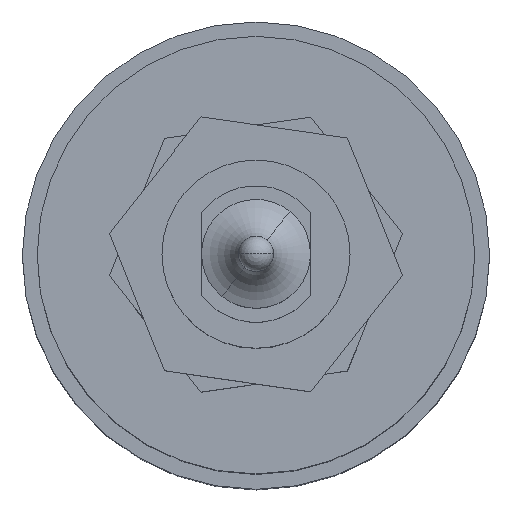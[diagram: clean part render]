
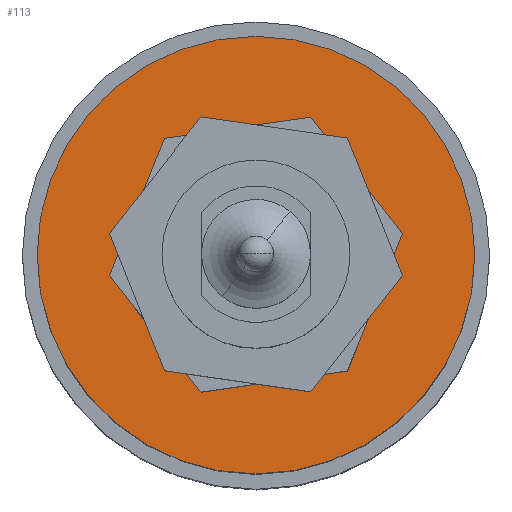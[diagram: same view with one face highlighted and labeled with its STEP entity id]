
A CAD part, top view. The second image highlights one B-rep face of the part: STEP entity #113.
In plain terms, the highlighted planar face has unit normal (0, 0, 1).
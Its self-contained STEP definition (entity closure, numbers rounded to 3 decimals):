
#113=ADVANCED_FACE('',(#214,#215),#216,.F.);
#214=FACE_OUTER_BOUND('',#342,.T.);
#215=FACE_BOUND('',#343,.T.);
#216=PLANE('',#344);
#342=EDGE_LOOP('',(#678,#679));
#343=EDGE_LOOP('',(#680,#681));
#344=AXIS2_PLACEMENT_3D('',#682,#683,#684);
#678=ORIENTED_EDGE('',*,*,#856,.F.);
#679=ORIENTED_EDGE('',*,*,#926,.F.);
#680=ORIENTED_EDGE('',*,*,#850,.T.);
#681=ORIENTED_EDGE('',*,*,#927,.T.);
#682=CARTESIAN_POINT('',(3.396,1.122,49.413));
#683=DIRECTION('',(0.0,0.0,-1.0));
#684=DIRECTION('',(0.0,-1.0,0.0));
#850=EDGE_CURVE('',#1030,#1027,#1031,.T.);
#856=EDGE_CURVE('',#1040,#1036,#1042,.T.);
#926=EDGE_CURVE('',#1036,#1040,#1156,.T.);
#927=EDGE_CURVE('',#1027,#1030,#1157,.T.);
#1027=VERTEX_POINT('',#1256);
#1030=VERTEX_POINT('',#1260);
#1031=CIRCLE('',#1261,4.75);
#1036=VERTEX_POINT('',#1267);
#1040=VERTEX_POINT('',#1272);
#1042=CIRCLE('',#1275,11.05);
#1156=CIRCLE('',#1431,11.05);
#1157=CIRCLE('',#1432,4.75);
#1256=CARTESIAN_POINT('',(-1.354,1.122,49.413));
#1260=CARTESIAN_POINT('',(8.146,1.122,49.413));
#1261=AXIS2_PLACEMENT_3D('',#1533,#1534,#1535);
#1267=CARTESIAN_POINT('',(-7.654,1.122,49.413));
#1272=CARTESIAN_POINT('',(14.446,1.122,49.413));
#1275=AXIS2_PLACEMENT_3D('',#1545,#1546,#1547);
#1431=AXIS2_PLACEMENT_3D('',#1671,#1672,#1673);
#1432=AXIS2_PLACEMENT_3D('',#1674,#1675,#1676);
#1533=CARTESIAN_POINT('',(3.396,1.122,49.413));
#1534=DIRECTION('',(0.0,0.0,-1.0));
#1535=DIRECTION('',(-1.0,0.0,0.0));
#1545=CARTESIAN_POINT('',(3.396,1.122,49.413));
#1546=DIRECTION('',(0.0,0.0,-1.0));
#1547=DIRECTION('',(-1.0,0.0,0.0));
#1671=CARTESIAN_POINT('',(3.396,1.122,49.413));
#1672=DIRECTION('',(0.0,0.0,-1.0));
#1673=DIRECTION('',(-1.0,0.0,0.0));
#1674=CARTESIAN_POINT('',(3.396,1.122,49.413));
#1675=DIRECTION('',(0.0,0.0,-1.0));
#1676=DIRECTION('',(-1.0,0.0,0.0));
